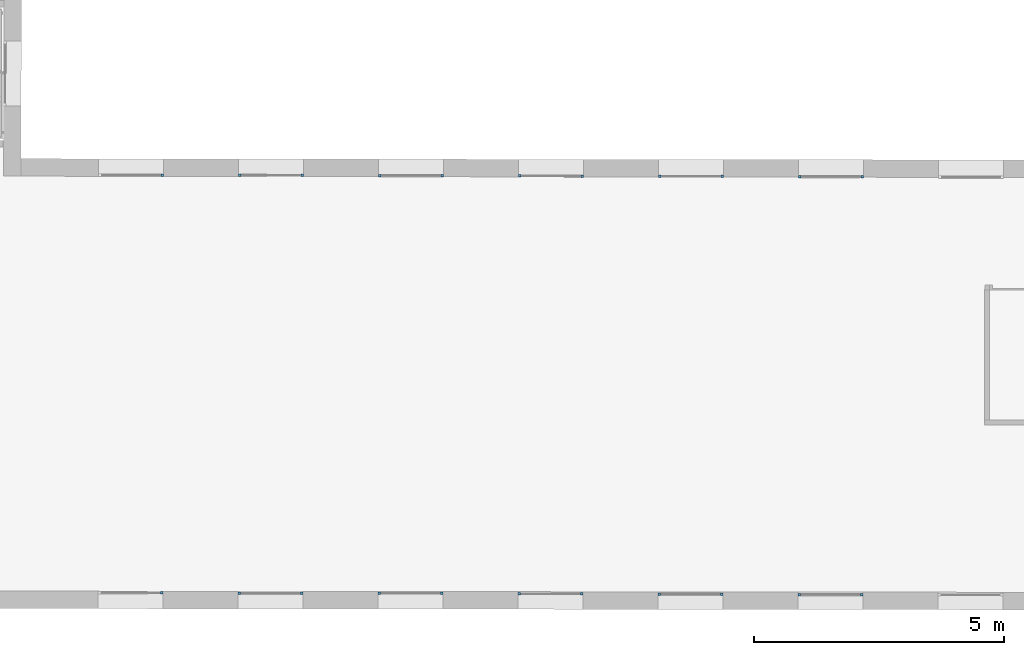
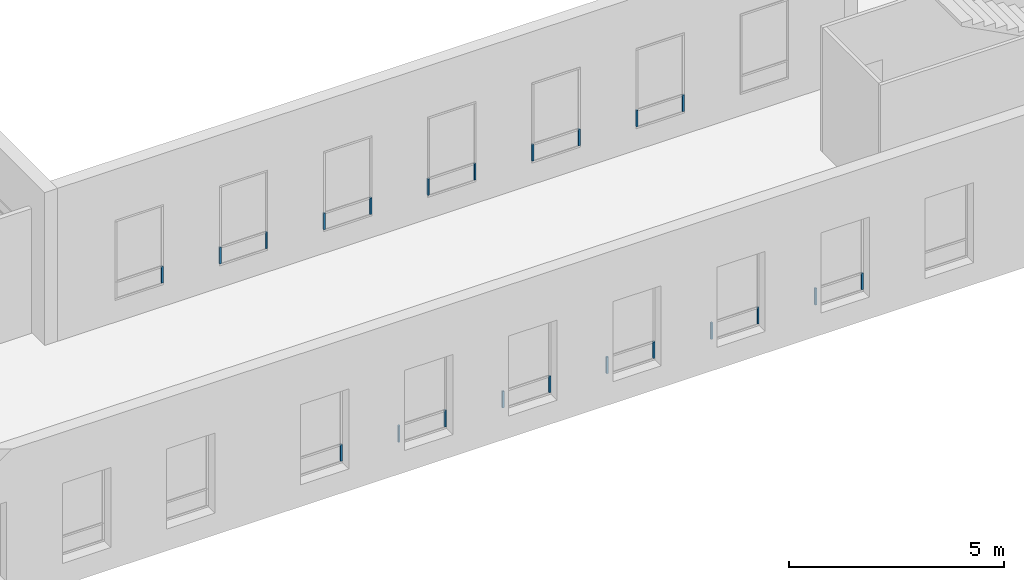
# One storey, part 16 of 35: 22 members, 12 elements without a shape of their own.
"""IFC2X3 building model written with IfcOpenShell, lengths in metres."""

import ifcopenshell
import ifcopenshell.guid

model = None  # the IFC model being written
_history = None  # IfcOwnerHistory: only IFC2X3 demands one
_inside = {}  # id of a spatial element -> (the spatial element, [elements in it])
_under = {}  # id of a project, library or spatial element -> (it, [spatial elements below it])
_declared = {}  # id of a project -> (the project, [libraries it declares])
_typed = {}  # id of a type object -> (the type object, [elements of that type])
_made_of = {}  # id of a material, layer set ... -> (it, [elements and type objects made of it])


def new_model(schema):
    """Start an empty IFC model of exactly this schema.

    Asked for "IFC4X3", IfcOpenShell would pick the latest addendum, in which some entities
    have other attributes; the version numbers below select the first issue.
    IFC2X3 requires an IfcOwnerHistory on every rooted entity: one is made here for all.
    """
    global model, _history
    if schema == "IFC4X3":
        model = ifcopenshell.file(schema_version=(4, 3, 0, 0))
    else:
        model = ifcopenshell.file(schema=schema)
    _inside.clear()
    _under.clear()
    _declared.clear()
    _typed.clear()
    _made_of.clear()
    _history = None
    if model.schema == "IFC2X3":
        org = make("IfcOrganization", Name="unknown")
        user = make(
            "IfcPersonAndOrganization",
            ThePerson=make("IfcPerson", FamilyName="unknown"),
            TheOrganization=org,
        )
        app = make(
            "IfcApplication",
            ApplicationDeveloper=org,
            Version="unknown",
            ApplicationFullName="unknown",
            ApplicationIdentifier="unknown",
        )
        _history = make(
            "IfcOwnerHistory",
            OwningUser=user,
            OwningApplication=app,
            ChangeAction="ADDED",
            CreationDate=0,
        )
    return model


def make(cls, **values):
    """One entity of the class cls with the attributes given. An attribute that is None is left unset."""
    return model.create_entity(
        cls, **{name: value for name, value in values.items() if value is not None}
    )


def entity(cls, *values):
    """Any entity or typed value of the class cls, its attributes in the order of the schema. None: left unset."""
    e = model.create_entity(cls)
    for i, value in enumerate(values):
        if value is not None:
            e[i] = value
    return e


def rooted(cls, **values):
    """An entity with a GlobalId (a new one), such as an element, a storey or a relation."""
    return make(cls, GlobalId=ifcopenshell.guid.new(), OwnerHistory=_history, **values)


def si_unit(unit_type, name, prefix=None):
    """IfcSIUnit, for example si_unit("LENGTHUNIT", "METRE", prefix="MILLI")."""
    return make("IfcSIUnit", UnitType=unit_type, Prefix=prefix, Name=name)


def converted_unit(unit_type, name, factor, base, dimensions=None, offset=None):
    """IfcConversionBasedUnit, such as the inch: factor (a typed value) times the base unit."""
    return make(
        "IfcConversionBasedUnit"
        if offset is None
        else "IfcConversionBasedUnitWithOffset",
        ConversionOffset=offset,
        Dimensions=None
        if dimensions is None
        else entity("IfcDimensionalExponents", *dimensions),
        UnitType=unit_type,
        Name=name,
        ConversionFactor=make(
            "IfcMeasureWithUnit", ValueComponent=factor, UnitComponent=base
        ),
    )


def derived_unit(unit_type, elements):
    """IfcDerivedUnit: a product of units, each with its exponent."""
    return make(
        "IfcDerivedUnit",
        Elements=[
            make("IfcDerivedUnitElement", Unit=unit, Exponent=power)
            for unit, power in elements
        ],
        UnitType=unit_type,
    )


def assignment(units):
    """IfcUnitAssignment: the units of a project."""
    return None if units is None else make("IfcUnitAssignment", Units=units)


def point(xyz):
    """IfcCartesianPoint."""
    return None if xyz is None else make("IfcCartesianPoint", Coordinates=xyz)


def direction(xyz):
    """IfcDirection."""
    return None if xyz is None else make("IfcDirection", DirectionRatios=xyz)


def frame(location, z_axis=None, x_axis=None):
    """IfcAxis2Placement3D, a coordinate frame: its origin and axes. An axis left out is left unset."""
    return make(
        "IfcAxis2Placement3D",
        Location=point(location),
        Axis=direction(z_axis),
        RefDirection=direction(x_axis),
    )


def frame_2d(location, x_axis=None):
    """IfcAxis2Placement2D, a coordinate frame in the plane: its origin and x axis."""
    return make(
        "IfcAxis2Placement2D", Location=point(location), RefDirection=direction(x_axis)
    )


def origin():
    """The frame at (0, 0, 0) with its axes left unset."""
    return frame((0.0, 0.0, 0.0))


def origin_2d_with_axis():
    """The frame at (0, 0) in the plane with the x axis (1, 0) written out."""
    return frame_2d((0.0, 0.0), x_axis=(1.0, 0.0))


def place(relative_to, where):
    """IfcLocalPlacement: puts the frame where relative to a parent placement (None: the world)."""
    return make(
        "IfcLocalPlacement", PlacementRelTo=relative_to, RelativePlacement=where
    )


def context(
    kind, dimensions, precision=None, world=None, true_north=None, identifier=None
):
    """IfcGeometricRepresentationContext, for example the 3D "Model" context."""
    return make(
        "IfcGeometricRepresentationContext",
        ContextIdentifier=identifier,
        ContextType=kind,
        CoordinateSpaceDimension=dimensions,
        Precision=precision,
        WorldCoordinateSystem=world,
        TrueNorth=true_north,
    )


def subcontext(parent, identifier, kind, view, scale=None):
    """IfcGeometricRepresentationSubContext, for example "Body" below "Model"."""
    return make(
        "IfcGeometricRepresentationSubContext",
        ContextIdentifier=identifier,
        ContextType=kind,
        ParentContext=parent,
        TargetScale=scale,
        TargetView=view,
    )


def project(units=None, contexts=None):
    """IfcProject with its units and contexts."""
    return rooted(
        "IfcProject",
        Name="project",
        RepresentationContexts=contexts,
        UnitsInContext=assignment(units),
    )


def spatial(cls, under=None, at=None, **own):
    """A site, building, storey or space (cls), placed at a placement, below another one or the project."""
    s = rooted(cls, ObjectPlacement=at, **own)
    if under is not None:
        _under.setdefault(under.id(), (under, []))[1].append(s)
    return s


def profile(cls, at=None, kind="AREA", **sizes):
    """A parametric profile (cls). Its sizes go by their IFC names, for example OverallWidth=200.0."""
    return make(cls, ProfileType=kind, Position=at, **sizes)


def rectangle(**sizes):
    """IfcRectangleProfileDef."""
    return profile("IfcRectangleProfileDef", **sizes)


def extrude(swept, where, along, depth):
    """IfcExtrudedAreaSolid: the profile swept, set in the frame where, extruded along a direction by depth."""
    return make(
        "IfcExtrudedAreaSolid",
        SweptArea=swept,
        Position=where,
        ExtrudedDirection=direction(along),
        Depth=depth,
    )


def shape(context_of_items, identifier, shape_type, items):
    """IfcShapeRepresentation: the items that make up one representation, for example the "Body"."""
    return make(
        "IfcShapeRepresentation",
        ContextOfItems=context_of_items,
        RepresentationIdentifier=identifier,
        RepresentationType=shape_type,
        Items=items,
    )


def source(mapping_origin, context_of_items, identifier, shape_type, items):
    """IfcRepresentationMap: a shape defined once, which mapped items show again and again."""
    return make(
        "IfcRepresentationMap",
        MappingOrigin=mapping_origin,
        MappedRepresentation=shape(context_of_items, identifier, shape_type, items),
    )


def transform(
    local_origin,
    x_axis=None,
    y_axis=None,
    z_axis=None,
    scale=None,
    scale2=None,
    scale3=None,
    uniform=True,
):
    """IfcCartesianTransformationOperator3D, or its non-uniform kind. x_axis, y_axis, z_axis: its Axis1, 2, 3."""
    if uniform:
        return make(
            "IfcCartesianTransformationOperator3D",
            Axis1=direction(x_axis),
            Axis2=direction(y_axis),
            LocalOrigin=point(local_origin),
            Scale=scale,
            Axis3=direction(z_axis),
        )
    return make(
        "IfcCartesianTransformationOperator3DnonUniform",
        Axis1=direction(x_axis),
        Axis2=direction(y_axis),
        LocalOrigin=point(local_origin),
        Scale=scale,
        Axis3=direction(z_axis),
        Scale2=scale2,
        Scale3=scale3,
    )


def mapped(mapping_source, mapping_target):
    """IfcMappedItem: shows the shape of a source again, moved by a transform."""
    return make(
        "IfcMappedItem", MappingSource=mapping_source, MappingTarget=mapping_target
    )


def material(Name=None, Category=None):
    """IfcMaterial."""
    return make("IfcMaterial", Name=Name, Category=Category)


def made_of(thing, what):
    """Note that an element or type object is made of a material, layer set ...; save() writes the relation."""
    if what is not None:
        _made_of.setdefault(what.id(), (what, []))[1].append(thing)
    return thing


def type_object(cls, material=None, **own):
    """A type object (cls), such as IfcWallType, which elements share."""
    return made_of(rooted(cls, **own), material)


def type_shapes(of_type, sources):
    """Give a type object the sources (RepresentationMaps) that its elements show as mapped items."""
    of_type.RepresentationMaps = sources


def element(
    cls,
    number,
    at=None,
    inside=None,
    cuts=None,
    type_object=None,
    material=None,
    context=None,
    identifier="Body",
    shape_type=None,
    held_by="IfcProductDefinitionShape",
    body=None,
    shapes=None,
    **own,
):
    """One element of the class cls, such as IfcWall. Its Tag is "e" and its number.

    at: its placement. inside: the storey or other place that contains it. cuts: it is an
    opening in that element (IfcRelVoidsElement). A single representation is given by context,
    identifier, shape_type and body (its items); several are given by shapes. held_by: the class
    of the entity that holds the representations. save() writes the other relations.
    """
    e = rooted(cls, Tag="e%d" % number, ObjectPlacement=at, **own)
    if body is not None:
        shapes = [shape(context, identifier, shape_type, body)]
    if shapes is not None:
        e.Representation = make(held_by, Representations=shapes)
    if inside is not None:
        _inside.setdefault(inside.id(), (inside, []))[1].append(e)
    if cuts is not None:
        rooted(
            "IfcRelVoidsElement", RelatingBuildingElement=cuts, RelatedOpeningElement=e
        )
    if type_object is not None:
        _typed.setdefault(type_object.id(), (type_object, []))[1].append(e)
    return made_of(e, material)


def aggregate(whole, parts):
    """IfcRelAggregates: a whole, such as a stair, and the parts it consists of."""
    return rooted("IfcRelAggregates", RelatingObject=whole, RelatedObjects=parts)


def save(model, path):
    """Write the relations noted so far, then the file.

    IfcRelAggregates (storeys below a building ...), IfcRelContainedInSpatialStructure (elements
    in a storey), IfcRelDefinesByType, IfcRelAssociatesMaterial and IfcRelDeclares: one each for
    every whole, place, type object, material and project.
    """
    for whole, parts in _under.values():
        aggregate(whole, parts)
    for where, things in _inside.values():
        rooted(
            "IfcRelContainedInSpatialStructure",
            RelatedElements=things,
            RelatingStructure=where,
        )
    for kind, things in _typed.values():
        rooted("IfcRelDefinesByType", RelatedObjects=things, RelatingType=kind)
    for what, things in _made_of.values():
        rooted("IfcRelAssociatesMaterial", RelatedObjects=things, RelatingMaterial=what)
    for by, libraries in _declared.values():
        rooted("IfcRelDeclares", RelatingContext=by, RelatedDefinitions=libraries)
    model.write(path)


model = new_model("IFC2X3")

# Units and contexts
model_context = context("Model", 3, precision=1e-05, world=origin(), true_north=direction((6.123233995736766e-17, 1.0)))
body_context = subcontext(model_context, "Body", "Model", "MODEL_VIEW")
ifc_project = project(units=[si_unit("LENGTHUNIT", "METRE"), si_unit("AREAUNIT", "SQUARE_METRE"), converted_unit("PLANEANGLEUNIT", "DEGREE", entity("IfcPlaneAngleMeasure", 0.017453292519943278), si_unit("PLANEANGLEUNIT", "RADIAN"), dimensions=[0, 0, 0, 0, 0, 0, 0]), derived_unit("THERMALTRANSMITTANCEUNIT", [(si_unit("MASSUNIT", "GRAM", prefix="KILO"), 1), (si_unit("THERMODYNAMICTEMPERATUREUNIT", "KELVIN"), -1), (si_unit("TIMEUNIT", "SECOND"), -3)])], contexts=[model_context])

# Site, building, storey
site_placement = place(None, frame((1253.6752467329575, 2072.143113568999, 91.49999999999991), z_axis=(0.0, 0.0, 1.0), x_axis=(0.7237211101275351, 0.6900925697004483, 0.0)))
site = spatial("IfcSite", under=ifc_project, at=site_placement, Name="Surface", CompositionType="ELEMENT")
building_placement = place(site_placement, origin())
building = spatial("IfcBuilding", under=site, at=building_placement, CompositionType="ELEMENT")
storey_placement = place(building_placement, frame((0.0, 0.0, 3.549999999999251)))
storey = spatial("IfcBuildingStorey", under=building, at=storey_placement, Name="1-R+1", CompositionType="ELEMENT", Elevation=3.549999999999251)

# Curtain wall, member
curtain_wall_type = type_object("IfcCurtainWallType", Name="Mur-rideau:Menuiserie Ext 1F+1OB VERTIC", PredefinedType="NOTDEFINED")
curtain_wall_1_placement = place(storey_placement, frame((0.0, 0.0, -3.549999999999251)))
curtain_wall_1 = element("IfcCurtainWall", 1, at=curtain_wall_1_placement, inside=storey, type_object=curtain_wall_type, Name="Mur-rideau:Menuiserie Ext 1F+1OB VERTIC", ObjectType="Mur-rideau:Menuiserie Ext 1F+1OB VERTIC")
ifc_material = material(Name="OMD_Aluminium Men Ext")
member_type_1 = type_object("IfcMemberType", Name="Meneau rectangulaire:50x50", PredefinedType="MULLION", material=ifc_material)
shared_shape_1 = source(origin(), body_context, "Body", "SweptSolid", [
    extrude(rectangle(XDim=0.05, YDim=0.049999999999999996, at=origin_2d_with_axis()), frame((-0.025, 0.0, -0.4699999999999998), z_axis=(0.0, 0.0, 1.0), x_axis=(-1.0, 0.0, 0.0)), (0.0, 0.0, 1.0), 0.4699999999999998),
])
type_shapes(member_type_1, [shared_shape_1])
member_1_placement = place(curtain_wall_1_placement, frame((157.2208317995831, -8.184696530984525, 4.219999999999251), z_axis=(0.0, 0.0, -1.0), x_axis=(-0.7228702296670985, 0.6909838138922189, 0.0)))
member_1 = element("IfcMember", 2, at=member_1_placement, type_object=member_type_1, material=ifc_material, Name="Meneau rectangulaire:50x50", ObjectType="Meneau rectangulaire:50x50", context=body_context, shape_type="MappedRepresentation", body=[
    mapped(shared_shape_1, transform((0.0, 0.0, 0.0), scale=1.0)),
])

curtain_wall_2_placement = place(storey_placement, frame((0.0, 0.0, -3.549999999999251)))
curtain_wall_2 = element("IfcCurtainWall", 3, at=curtain_wall_2_placement, inside=storey, type_object=curtain_wall_type, Name="Mur-rideau:Menuiserie Ext 1F+1OB VERTIC", ObjectType="Mur-rideau:Menuiserie Ext 1F+1OB VERTIC")
member_2_placement = place(curtain_wall_2_placement, frame((159.24221096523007, -10.122227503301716, 4.219999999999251), z_axis=(0.0, 0.0, -1.0), x_axis=(-0.7228702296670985, 0.6909838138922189, 0.0)))
member_2 = element("IfcMember", 4, at=member_2_placement, type_object=member_type_1, material=ifc_material, Name="Meneau rectangulaire:50x50", ObjectType="Meneau rectangulaire:50x50", context=body_context, shape_type="MappedRepresentation", body=[
    mapped(shared_shape_1, transform((0.0, 0.0, 0.0), scale=1.0)),
])

curtain_wall_3_placement = place(storey_placement, frame((0.0, 0.0, -3.549999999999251)))
curtain_wall_3 = element("IfcCurtainWall", 5, at=curtain_wall_3_placement, inside=storey, type_object=curtain_wall_type, Name="Mur-rideau:Menuiserie Ext 1F+1OB VERTIC", ObjectType="Mur-rideau:Menuiserie Ext 1F+1OB VERTIC")
member_3_placement = place(curtain_wall_3_placement, frame((161.263590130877, -12.059758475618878, 4.219999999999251), z_axis=(0.0, 0.0, -1.0), x_axis=(-0.7228702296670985, 0.6909838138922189, 0.0)))
member_3 = element("IfcMember", 6, at=member_3_placement, type_object=member_type_1, material=ifc_material, Name="Meneau rectangulaire:50x50", ObjectType="Meneau rectangulaire:50x50", context=body_context, shape_type="MappedRepresentation", body=[
    mapped(shared_shape_1, transform((0.0, 0.0, 0.0), scale=1.0)),
])

curtain_wall_4_placement = place(storey_placement, frame((0.0, 0.0, -3.549999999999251)))
curtain_wall_4 = element("IfcCurtainWall", 7, at=curtain_wall_4_placement, inside=storey, type_object=curtain_wall_type, Name="Mur-rideau:Menuiserie Ext 1F+1OB VERTIC", ObjectType="Mur-rideau:Menuiserie Ext 1F+1OB VERTIC")
member_4_placement = place(curtain_wall_4_placement, frame((163.28496929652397, -13.997289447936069, 4.219999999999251), z_axis=(0.0, 0.0, -1.0), x_axis=(-0.7228702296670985, 0.6909838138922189, 0.0)))
member_4 = element("IfcMember", 8, at=member_4_placement, type_object=member_type_1, material=ifc_material, Name="Meneau rectangulaire:50x50", ObjectType="Meneau rectangulaire:50x50", context=body_context, shape_type="MappedRepresentation", body=[
    mapped(shared_shape_1, transform((0.0, 0.0, 0.0), scale=1.0)),
])

curtain_wall_5_placement = place(storey_placement, frame((0.0, 0.0, -3.549999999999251)))
curtain_wall_5 = element("IfcCurtainWall", 9, at=curtain_wall_5_placement, inside=storey, type_object=curtain_wall_type, Name="Mur-rideau:Menuiserie Ext 1F+1OB VERTIC", ObjectType="Mur-rideau:Menuiserie Ext 1F+1OB VERTIC")
member_5_placement = place(curtain_wall_5_placement, frame((165.30634846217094, -15.934820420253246, 4.219999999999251), z_axis=(0.0, 0.0, -1.0), x_axis=(-0.7228702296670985, 0.6909838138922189, 0.0)))
member_5 = element("IfcMember", 10, at=member_5_placement, type_object=member_type_1, material=ifc_material, Name="Meneau rectangulaire:50x50", ObjectType="Meneau rectangulaire:50x50", context=body_context, shape_type="MappedRepresentation", body=[
    mapped(shared_shape_1, transform((0.0, 0.0, 0.0), scale=1.0)),
])

curtain_wall_6_placement = place(storey_placement, frame((0.0, 0.0, -3.549999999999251)))
curtain_wall_6 = element("IfcCurtainWall", 11, at=curtain_wall_6_placement, inside=storey, type_object=curtain_wall_type, Name="Mur-rideau:Menuiserie Ext 1F+1OB VERTIC", ObjectType="Mur-rideau:Menuiserie Ext 1F+1OB VERTIC")
member_6_placement = place(curtain_wall_6_placement, frame((162.99675977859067, -2.1425170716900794, 4.219999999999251), z_axis=(0.0, 0.0, -1.0), x_axis=(-0.7228702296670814, 0.6909838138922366, 0.0)))
member_6 = element("IfcMember", 12, at=member_6_placement, type_object=member_type_1, material=ifc_material, Name="Meneau rectangulaire:50x50", ObjectType="Meneau rectangulaire:50x50", context=body_context, shape_type="MappedRepresentation", body=[
    mapped(shared_shape_1, transform((0.0, 0.0, 0.0), scale=1.0)),
])

curtain_wall_7_placement = place(storey_placement, frame((0.0, 0.0, -3.549999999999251)))
curtain_wall_7 = element("IfcCurtainWall", 13, at=curtain_wall_7_placement, inside=storey, type_object=curtain_wall_type, Name="Mur-rideau:Menuiserie Ext 1F+1OB VERTIC", ObjectType="Mur-rideau:Menuiserie Ext 1F+1OB VERTIC")
member_7_placement = place(curtain_wall_7_placement, frame((165.01814084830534, -4.080049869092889, 4.219999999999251), z_axis=(0.0, 0.0, -1.0), x_axis=(-0.7228702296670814, 0.6909838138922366, 0.0)))
member_7 = element("IfcMember", 14, at=member_7_placement, type_object=member_type_1, material=ifc_material, Name="Meneau rectangulaire:50x50", ObjectType="Meneau rectangulaire:50x50", context=body_context, shape_type="MappedRepresentation", body=[
    mapped(shared_shape_1, transform((0.0, 0.0, 0.0), scale=1.0)),
])

curtain_wall_8_placement = place(storey_placement, frame((0.0, 0.0, -3.549999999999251)))
curtain_wall_8 = element("IfcCurtainWall", 15, at=curtain_wall_8_placement, inside=storey, type_object=curtain_wall_type, Name="Mur-rideau:Menuiserie Ext 1F+1OB VERTIC", ObjectType="Mur-rideau:Menuiserie Ext 1F+1OB VERTIC")
member_8_placement = place(curtain_wall_8_placement, frame((167.03952191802, -6.01758266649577, 4.219999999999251), z_axis=(0.0, 0.0, -1.0), x_axis=(-0.7228702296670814, 0.6909838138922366, 0.0)))
member_8 = element("IfcMember", 16, at=member_8_placement, type_object=member_type_1, material=ifc_material, Name="Meneau rectangulaire:50x50", ObjectType="Meneau rectangulaire:50x50", context=body_context, shape_type="MappedRepresentation", body=[
    mapped(shared_shape_1, transform((0.0, 0.0, 0.0), scale=1.0)),
])

curtain_wall_9_placement = place(storey_placement, frame((0.0, 0.0, -3.549999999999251)))
curtain_wall_9 = element("IfcCurtainWall", 17, at=curtain_wall_9_placement, inside=storey, type_object=curtain_wall_type, Name="Mur-rideau:Menuiserie Ext 1F+1OB VERTIC", ObjectType="Mur-rideau:Menuiserie Ext 1F+1OB VERTIC")
member_9_placement = place(curtain_wall_9_placement, frame((169.0609029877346, -7.955115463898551, 4.219999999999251), z_axis=(0.0, 0.0, -1.0), x_axis=(-0.7228702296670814, 0.6909838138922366, 0.0)))
member_9 = element("IfcMember", 18, at=member_9_placement, type_object=member_type_1, material=ifc_material, Name="Meneau rectangulaire:50x50", ObjectType="Meneau rectangulaire:50x50", context=body_context, shape_type="MappedRepresentation", body=[
    mapped(shared_shape_1, transform((0.0, 0.0, 0.0), scale=1.0)),
])

curtain_wall_10_placement = place(storey_placement, frame((0.0, 0.0, -3.549999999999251)))
curtain_wall_10 = element("IfcCurtainWall", 19, at=curtain_wall_10_placement, inside=storey, type_object=curtain_wall_type, Name="Mur-rideau:Menuiserie Ext 1F+1OB VERTIC", ObjectType="Mur-rideau:Menuiserie Ext 1F+1OB VERTIC")
member_10_placement = place(curtain_wall_10_placement, frame((171.08228405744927, -9.892648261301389, 4.219999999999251), z_axis=(0.0, 0.0, -1.0), x_axis=(-0.7228702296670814, 0.6909838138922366, 0.0)))
member_10 = element("IfcMember", 20, at=member_10_placement, type_object=member_type_1, material=ifc_material, Name="Meneau rectangulaire:50x50", ObjectType="Meneau rectangulaire:50x50", context=body_context, shape_type="MappedRepresentation", body=[
    mapped(shared_shape_1, transform((0.0, 0.0, 0.0), scale=1.0)),
])

curtain_wall_11_placement = place(storey_placement, frame((0.0, 0.0, -3.549999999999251)))
curtain_wall_11 = element("IfcCurtainWall", 21, at=curtain_wall_11_placement, inside=storey, type_object=curtain_wall_type, Name="Mur-rideau:Menuiserie Ext 1F+1OB VERTIC", ObjectType="Mur-rideau:Menuiserie Ext 1F+1OB VERTIC")
member_type_2 = type_object("IfcMemberType", Name="Meneau rectangulaire:50x50", PredefinedType="MULLION", material=ifc_material)
shared_shape_2 = source(origin(), body_context, "Body", "SweptSolid", [
    extrude(rectangle(XDim=0.05, YDim=0.049999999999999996, at=origin_2d_with_axis()), frame((-0.025, 0.0, -0.4699999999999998), z_axis=(0.0, 0.0, 1.0), x_axis=(-1.0, 0.0, 0.0)), (0.0, 0.0, 1.0), 0.4699999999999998),
])
type_shapes(member_type_2, [shared_shape_2])
member_11_placement = place(curtain_wall_11_placement, frame((156.13896410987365, -7.145234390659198, 4.689999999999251), z_axis=(0.0, 0.0, 1.0), x_axis=(0.7228702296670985, -0.6909838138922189, 0.0)))
member_11 = element("IfcMember", 22, at=member_11_placement, type_object=member_type_2, material=ifc_material, Name="Meneau rectangulaire:50x50", ObjectType="Meneau rectangulaire:50x50", context=body_context, shape_type="MappedRepresentation", body=[
    mapped(shared_shape_2, transform((0.0, 0.0, 0.0), scale=1.0)),
])
aggregate(curtain_wall_11, [member_11])

# Member
member_12_placement = place(curtain_wall_1_placement, frame((158.16034327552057, -9.082765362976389, 4.689999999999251), z_axis=(0.0, 0.0, 1.0), x_axis=(0.7228702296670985, -0.6909838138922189, 0.0)))
member_12 = element("IfcMember", 23, at=member_12_placement, type_object=member_type_2, material=ifc_material, Name="Meneau rectangulaire:50x50", ObjectType="Meneau rectangulaire:50x50", context=body_context, shape_type="MappedRepresentation", body=[
    mapped(shared_shape_2, transform((0.0, 0.0, 0.0), scale=1.0)),
])

aggregate(curtain_wall_1, [member_1, member_12])

member_13_placement = place(curtain_wall_2_placement, frame((160.18172244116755, -11.020296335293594, 4.689999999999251), z_axis=(0.0, 0.0, 1.0), x_axis=(0.7228702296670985, -0.6909838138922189, 0.0)))
member_13 = element("IfcMember", 24, at=member_13_placement, type_object=member_type_2, material=ifc_material, Name="Meneau rectangulaire:50x50", ObjectType="Meneau rectangulaire:50x50", context=body_context, shape_type="MappedRepresentation", body=[
    mapped(shared_shape_2, transform((0.0, 0.0, 0.0), scale=1.0)),
])

aggregate(curtain_wall_2, [member_2, member_13])

member_14_placement = place(curtain_wall_3_placement, frame((162.2031016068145, -12.957827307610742, 4.689999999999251), z_axis=(0.0, 0.0, 1.0), x_axis=(0.7228702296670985, -0.6909838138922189, 0.0)))
member_14 = element("IfcMember", 25, at=member_14_placement, type_object=member_type_2, material=ifc_material, Name="Meneau rectangulaire:50x50", ObjectType="Meneau rectangulaire:50x50", context=body_context, shape_type="MappedRepresentation", body=[
    mapped(shared_shape_2, transform((0.0, 0.0, 0.0), scale=1.0)),
])

aggregate(curtain_wall_3, [member_3, member_14])

member_15_placement = place(curtain_wall_4_placement, frame((164.22448077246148, -14.895358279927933, 4.689999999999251), z_axis=(0.0, 0.0, 1.0), x_axis=(0.7228702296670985, -0.6909838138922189, 0.0)))
member_15 = element("IfcMember", 26, at=member_15_placement, type_object=member_type_2, material=ifc_material, Name="Meneau rectangulaire:50x50", ObjectType="Meneau rectangulaire:50x50", context=body_context, shape_type="MappedRepresentation", body=[
    mapped(shared_shape_2, transform((0.0, 0.0, 0.0), scale=1.0)),
])

aggregate(curtain_wall_4, [member_4, member_15])

member_16_placement = place(curtain_wall_5_placement, frame((166.24585993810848, -16.832889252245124, 4.689999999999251), z_axis=(0.0, 0.0, 1.0), x_axis=(0.7228702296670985, -0.6909838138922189, 0.0)))
member_16 = element("IfcMember", 27, at=member_16_placement, type_object=member_type_2, material=ifc_material, Name="Meneau rectangulaire:50x50", ObjectType="Meneau rectangulaire:50x50", context=body_context, shape_type="MappedRepresentation", body=[
    mapped(shared_shape_2, transform((0.0, 0.0, 0.0), scale=1.0)),
])

aggregate(curtain_wall_5, [member_5, member_16])

# Curtain wall, member
curtain_wall_12_placement = place(storey_placement, frame((0.0, 0.0, -3.549999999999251)))
curtain_wall_12 = element("IfcCurtainWall", 28, at=curtain_wall_12_placement, inside=storey, type_object=curtain_wall_type, Name="Mur-rideau:Menuiserie Ext 1F+1OB VERTIC", ObjectType="Mur-rideau:Menuiserie Ext 1F+1OB VERTIC")
member_17_placement = place(curtain_wall_12_placement, frame((161.9097069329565, -1.1034150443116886, 4.689999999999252), z_axis=(0.0, 0.0, 1.0), x_axis=(0.7228702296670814, -0.6909838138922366, 0.0)))
member_17 = element("IfcMember", 29, at=member_17_placement, type_object=member_type_2, material=ifc_material, Name="Meneau rectangulaire:50x50", ObjectType="Meneau rectangulaire:50x50", context=body_context, shape_type="MappedRepresentation", body=[
    mapped(shared_shape_2, transform((0.0, 0.0, 0.0), scale=1.0)),
])
aggregate(curtain_wall_12, [member_17])

# Member
member_18_placement = place(curtain_wall_6_placement, frame((163.9362712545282, -3.0405859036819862, 4.689999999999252), z_axis=(0.0, 0.0, 1.0), x_axis=(0.7228702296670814, -0.6909838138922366, 0.0)))
member_18 = element("IfcMember", 30, at=member_18_placement, type_object=member_type_2, material=ifc_material, Name="Meneau rectangulaire:50x50", ObjectType="Meneau rectangulaire:50x50", context=body_context, shape_type="MappedRepresentation", body=[
    mapped(shared_shape_2, transform((0.0, 0.0, 0.0), scale=1.0)),
])

aggregate(curtain_wall_6, [member_6, member_18])

member_19_placement = place(curtain_wall_7_placement, frame((165.95765232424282, -4.978118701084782, 4.689999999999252), z_axis=(0.0, 0.0, 1.0), x_axis=(0.7228702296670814, -0.6909838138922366, 0.0)))
member_19 = element("IfcMember", 31, at=member_19_placement, type_object=member_type_2, material=ifc_material, Name="Meneau rectangulaire:50x50", ObjectType="Meneau rectangulaire:50x50", context=body_context, shape_type="MappedRepresentation", body=[
    mapped(shared_shape_2, transform((0.0, 0.0, 0.0), scale=1.0)),
])

aggregate(curtain_wall_7, [member_7, member_19])

member_20_placement = place(curtain_wall_8_placement, frame((167.97903339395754, -6.915651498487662, 4.689999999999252), z_axis=(0.0, 0.0, 1.0), x_axis=(0.7228702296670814, -0.6909838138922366, 0.0)))
member_20 = element("IfcMember", 32, at=member_20_placement, type_object=member_type_2, material=ifc_material, Name="Meneau rectangulaire:50x50", ObjectType="Meneau rectangulaire:50x50", context=body_context, shape_type="MappedRepresentation", body=[
    mapped(shared_shape_2, transform((0.0, 0.0, 0.0), scale=1.0)),
])

aggregate(curtain_wall_8, [member_8, member_20])

member_21_placement = place(curtain_wall_9_placement, frame((170.0004144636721, -8.85318429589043, 4.689999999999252), z_axis=(0.0, 0.0, 1.0), x_axis=(0.7228702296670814, -0.6909838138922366, 0.0)))
member_21 = element("IfcMember", 33, at=member_21_placement, type_object=member_type_2, material=ifc_material, Name="Meneau rectangulaire:50x50", ObjectType="Meneau rectangulaire:50x50", context=body_context, shape_type="MappedRepresentation", body=[
    mapped(shared_shape_2, transform((0.0, 0.0, 0.0), scale=1.0)),
])

aggregate(curtain_wall_9, [member_9, member_21])

member_22_placement = place(curtain_wall_10_placement, frame((172.02179553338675, -10.790717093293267, 4.689999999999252), z_axis=(0.0, 0.0, 1.0), x_axis=(0.7228702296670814, -0.6909838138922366, 0.0)))
member_22 = element("IfcMember", 34, at=member_22_placement, type_object=member_type_2, material=ifc_material, Name="Meneau rectangulaire:50x50", ObjectType="Meneau rectangulaire:50x50", context=body_context, shape_type="MappedRepresentation", body=[
    mapped(shared_shape_2, transform((0.0, 0.0, 0.0), scale=1.0)),
])

aggregate(curtain_wall_10, [member_10, member_22])

save(model, "model.ifc")
